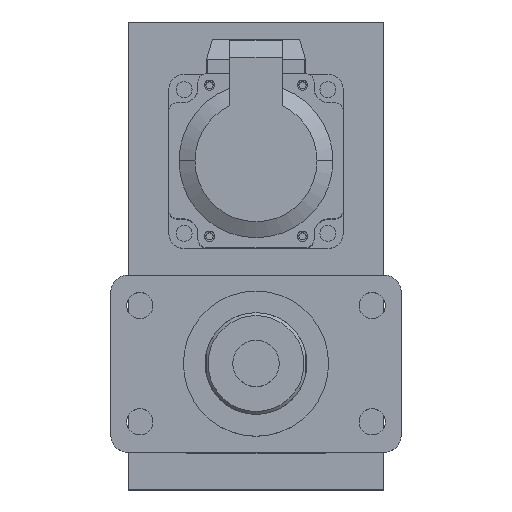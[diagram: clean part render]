
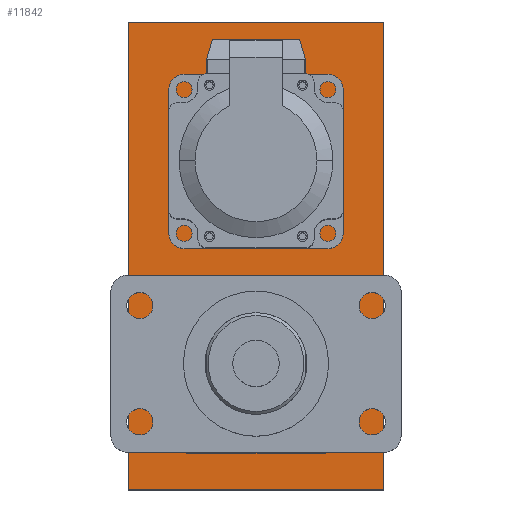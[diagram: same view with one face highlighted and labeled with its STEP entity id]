
A CAD part, top view. The second image highlights one B-rep face of the part: STEP entity #11842.
In plain terms, the highlighted planar face has unit normal (0, 0, 1).
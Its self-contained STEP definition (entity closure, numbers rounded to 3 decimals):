
#27 = EDGE_CURVE ( 'NONE', #15560, #18042, #15989, .T. ) ;
#70 = CARTESIAN_POINT ( 'NONE',  ( 44., -43., -31. ) ) ;
#87 = DIRECTION ( 'NONE',  ( 0., 0., -1. ) ) ;
#152 = ORIENTED_EDGE ( 'NONE', *, *, #22597, .T. ) ;
#467 = FACE_OUTER_BOUND ( 'NONE', #7904, .T. ) ;
#617 = ORIENTED_EDGE ( 'NONE', *, *, #8272, .T. ) ;
#879 = LINE ( 'NONE', #16041, #10217 ) ;
#1275 = DIRECTION ( 'NONE',  ( 0., 0., -1. ) ) ;
#1309 = EDGE_CURVE ( 'NONE', #5508, #20979, #17383, .T. ) ;
#1410 = CARTESIAN_POINT ( 'NONE',  ( 22.5, 30.5, -31. ) ) ;
#1538 = VERTEX_POINT ( 'NONE', #1410 ) ;
#1558 = ORIENTED_EDGE ( 'NONE', *, *, #22577, .F. ) ;
#1872 = CARTESIAN_POINT ( 'NONE',  ( -22.5, -22.5, -31. ) ) ;
#2105 = CIRCLE ( 'NONE', #22036, 8. ) ;
#2638 = CARTESIAN_POINT ( 'NONE',  ( 9.409, 70., -31. ) ) ;
#2869 = DIRECTION ( 'NONE',  ( -1., 0., 0. ) ) ;
#3370 = ORIENTED_EDGE ( 'NONE', *, *, #23632, .T. ) ;
#3457 = CARTESIAN_POINT ( 'NONE',  ( -44., -43., -31. ) ) ;
#3463 = CARTESIAN_POINT ( 'NONE',  ( 22.5, -30.5, -31. ) ) ;
#3653 = EDGE_LOOP ( 'NONE', ( #3370, #6119, #4178, #17831, #12737, #22949, #152, #617 ) ) ;
#3704 = VERTEX_POINT ( 'NONE', #12550 ) ;
#3749 = DIRECTION ( 'NONE',  ( -1., 0., 0. ) ) ;
#3905 = CARTESIAN_POINT ( 'NONE',  ( -44., 118., -31. ) ) ;
#3925 = VECTOR ( 'NONE', #2869, 1000. ) ;
#4178 = ORIENTED_EDGE ( 'NONE', *, *, #12767, .T. ) ;
#4386 = DIRECTION ( 'NONE',  ( 1., 0., 0. ) ) ;
#5125 = DIRECTION ( 'NONE',  ( 1., 0., 0. ) ) ;
#5508 = VERTEX_POINT ( 'NONE', #23810 ) ;
#5727 = VERTEX_POINT ( 'NONE', #5878 ) ;
#5751 = DIRECTION ( 'NONE',  ( 0., 0., 1. ) ) ;
#5784 = VECTOR ( 'NONE', #18090, 1000. ) ;
#5878 = CARTESIAN_POINT ( 'NONE',  ( -9.409, 70., -31. ) ) ;
#5931 = AXIS2_PLACEMENT_3D ( 'NONE', #21678, #23633, #10225 ) ;
#6092 = EDGE_CURVE ( 'NONE', #10771, #10531, #21240, .T. ) ;
#6119 = ORIENTED_EDGE ( 'NONE', *, *, #6092, .T. ) ;
#6590 = AXIS2_PLACEMENT_3D ( 'NONE', #12620, #7306, #5125 ) ;
#6635 = CARTESIAN_POINT ( 'NONE',  ( -30.5, -22.5, -31. ) ) ;
#6675 = ORIENTED_EDGE ( 'NONE', *, *, #19173, .F. ) ;
#6748 = VECTOR ( 'NONE', #18514, 1000. ) ;
#7144 = CARTESIAN_POINT ( 'NONE',  ( 30.5, -22.5, -31. ) ) ;
#7306 = DIRECTION ( 'NONE',  ( 0., 0., 1. ) ) ;
#7641 = AXIS2_PLACEMENT_3D ( 'NONE', #20956, #5751, #9592 ) ;
#7904 = EDGE_LOOP ( 'NONE', ( #6675, #22537, #18265, #11528 ) ) ;
#8001 = DIRECTION ( 'NONE',  ( 0., 1., 0. ) ) ;
#8272 = EDGE_CURVE ( 'NONE', #17172, #9441, #2105, .T. ) ;
#8283 = AXIS2_PLACEMENT_3D ( 'NONE', #19974, #1275, #16102 ) ;
#8672 = DIRECTION ( 'NONE',  ( 0., 0., -1. ) ) ;
#9040 = EDGE_CURVE ( 'NONE', #17218, #15560, #23715, .T. ) ;
#9441 = VERTEX_POINT ( 'NONE', #3463 ) ;
#9528 = VECTOR ( 'NONE', #21978, 1000. ) ;
#9592 = DIRECTION ( 'NONE',  ( 1., 0., 0. ) ) ;
#9624 = VECTOR ( 'NONE', #14158, 1000. ) ;
#9683 = EDGE_LOOP ( 'NONE', ( #1558, #23013 ) ) ;
#9883 = AXIS2_PLACEMENT_3D ( 'NONE', #15421, #20785, #17318 ) ;
#10217 = VECTOR ( 'NONE', #4386, 1000. ) ;
#10225 = DIRECTION ( 'NONE',  ( 1., 0., 0. ) ) ;
#10523 = LINE ( 'NONE', #12286, #9624 ) ;
#10531 = VERTEX_POINT ( 'NONE', #22092 ) ;
#10771 = VERTEX_POINT ( 'NONE', #11818 ) ;
#11528 = ORIENTED_EDGE ( 'NONE', *, *, #9040, .F. ) ;
#11645 = CARTESIAN_POINT ( 'NONE',  ( 44., 118., -31. ) ) ;
#11818 = CARTESIAN_POINT ( 'NONE',  ( -22.5, -30.5, -31. ) ) ;
#11842 = ADVANCED_FACE ( 'NONE', ( #22969, #18854, #467 ), #20874, .T. ) ;
#12077 = VECTOR ( 'NONE', #8001, 1000. ) ;
#12286 = CARTESIAN_POINT ( 'NONE',  ( 22.5, 30.5, -31. ) ) ;
#12408 = DIRECTION ( 'NONE',  ( 1., 0., 0. ) ) ;
#12550 = CARTESIAN_POINT ( 'NONE',  ( 30.5, 22.5, -31. ) ) ;
#12620 = CARTESIAN_POINT ( 'NONE',  ( 0., 70., -31. ) ) ;
#12737 = ORIENTED_EDGE ( 'NONE', *, *, #18256, .T. ) ;
#12767 = EDGE_CURVE ( 'NONE', #10531, #5508, #20015, .T. ) ;
#12783 = LINE ( 'NONE', #13374, #15106 ) ;
#13374 = CARTESIAN_POINT ( 'NONE',  ( 44., -43., -31. ) ) ;
#13710 = CARTESIAN_POINT ( 'NONE',  ( 22.5, -30.5, -31. ) ) ;
#13825 = CARTESIAN_POINT ( 'NONE',  ( 30.5, -22.5, -31. ) ) ;
#14158 = DIRECTION ( 'NONE',  ( 1., 0., 0. ) ) ;
#15106 = VECTOR ( 'NONE', #22816, 1000. ) ;
#15421 = CARTESIAN_POINT ( 'NONE',  ( -22.5, 22.5, -31. ) ) ;
#15560 = VERTEX_POINT ( 'NONE', #19748 ) ;
#15989 = LINE ( 'NONE', #3457, #5784 ) ;
#16008 = CARTESIAN_POINT ( 'NONE',  ( 22.5, -22.5, -31. ) ) ;
#16041 = CARTESIAN_POINT ( 'NONE',  ( 44., 118., -31. ) ) ;
#16102 = DIRECTION ( 'NONE',  ( 1., 0., 0. ) ) ;
#16129 = CARTESIAN_POINT ( 'NONE',  ( 44., -43., -31. ) ) ;
#17172 = VERTEX_POINT ( 'NONE', #13825 ) ;
#17218 = VERTEX_POINT ( 'NONE', #16129 ) ;
#17318 = DIRECTION ( 'NONE',  ( 1., 0., 0. ) ) ;
#17383 = CIRCLE ( 'NONE', #9883, 8. ) ;
#17706 = LINE ( 'NONE', #7144, #9528 ) ;
#17831 = ORIENTED_EDGE ( 'NONE', *, *, #1309, .T. ) ;
#18042 = VERTEX_POINT ( 'NONE', #3905 ) ;
#18090 = DIRECTION ( 'NONE',  ( 0., 1., 0. ) ) ;
#18146 = EDGE_CURVE ( 'NONE', #18042, #22322, #879, .T. ) ;
#18256 = EDGE_CURVE ( 'NONE', #20979, #1538, #10523, .T. ) ;
#18265 = ORIENTED_EDGE ( 'NONE', *, *, #27, .F. ) ;
#18299 = CIRCLE ( 'NONE', #6590, 9.409 ) ;
#18514 = DIRECTION ( 'NONE',  ( -1., 0., 0. ) ) ;
#18700 = VERTEX_POINT ( 'NONE', #2638 ) ;
#18854 = FACE_BOUND ( 'NONE', #3653, .T. ) ;
#19173 = EDGE_CURVE ( 'NONE', #22322, #17218, #12783, .T. ) ;
#19684 = CIRCLE ( 'NONE', #8283, 8. ) ;
#19748 = CARTESIAN_POINT ( 'NONE',  ( -44., -43., -31. ) ) ;
#19974 = CARTESIAN_POINT ( 'NONE',  ( 22.5, 22.5, -31. ) ) ;
#20015 = LINE ( 'NONE', #6635, #12077 ) ;
#20545 = AXIS2_PLACEMENT_3D ( 'NONE', #1872, #87, #3749 ) ;
#20785 = DIRECTION ( 'NONE',  ( 0., 0., -1. ) ) ;
#20851 = CIRCLE ( 'NONE', #5931, 9.409 ) ;
#20874 = PLANE ( 'NONE',  #7641 ) ;
#20956 = CARTESIAN_POINT ( 'NONE',  ( 0., 0., -31. ) ) ;
#20979 = VERTEX_POINT ( 'NONE', #21889 ) ;
#21234 = LINE ( 'NONE', #13710, #3925 ) ;
#21240 = CIRCLE ( 'NONE', #20545, 8. ) ;
#21497 = EDGE_CURVE ( 'NONE', #1538, #3704, #19684, .T. ) ;
#21678 = CARTESIAN_POINT ( 'NONE',  ( 0., 70., -31. ) ) ;
#21889 = CARTESIAN_POINT ( 'NONE',  ( -22.5, 30.5, -31. ) ) ;
#21899 = EDGE_CURVE ( 'NONE', #5727, #18700, #20851, .T. ) ;
#21978 = DIRECTION ( 'NONE',  ( 0., -1., 0. ) ) ;
#22036 = AXIS2_PLACEMENT_3D ( 'NONE', #16008, #8672, #12408 ) ;
#22092 = CARTESIAN_POINT ( 'NONE',  ( -30.5, -22.5, -31. ) ) ;
#22322 = VERTEX_POINT ( 'NONE', #11645 ) ;
#22537 = ORIENTED_EDGE ( 'NONE', *, *, #18146, .F. ) ;
#22577 = EDGE_CURVE ( 'NONE', #18700, #5727, #18299, .T. ) ;
#22597 = EDGE_CURVE ( 'NONE', #3704, #17172, #17706, .T. ) ;
#22816 = DIRECTION ( 'NONE',  ( 0., -1., 0. ) ) ;
#22949 = ORIENTED_EDGE ( 'NONE', *, *, #21497, .T. ) ;
#22969 = FACE_BOUND ( 'NONE', #9683, .T. ) ;
#23013 = ORIENTED_EDGE ( 'NONE', *, *, #21899, .F. ) ;
#23632 = EDGE_CURVE ( 'NONE', #9441, #10771, #21234, .T. ) ;
#23633 = DIRECTION ( 'NONE',  ( 0., 0., 1. ) ) ;
#23715 = LINE ( 'NONE', #70, #6748 ) ;
#23810 = CARTESIAN_POINT ( 'NONE',  ( -30.5, 22.5, -31. ) ) ;
